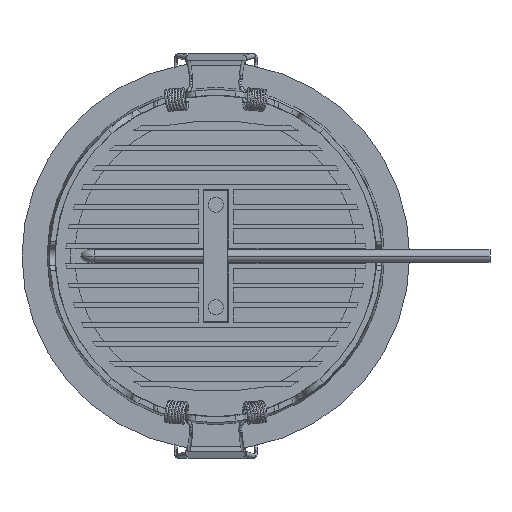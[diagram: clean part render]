
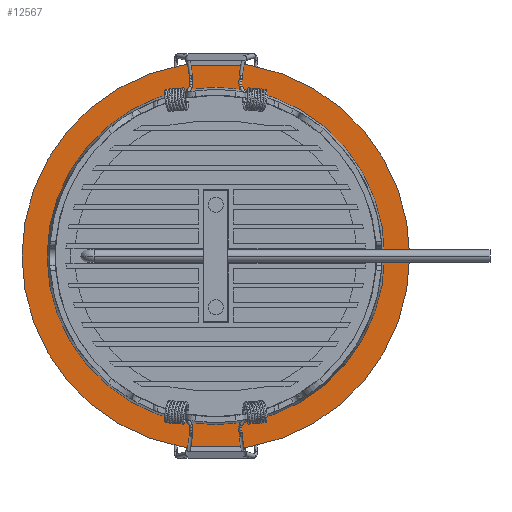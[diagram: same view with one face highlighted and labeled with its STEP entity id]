
A CAD part, front view. The second image highlights one B-rep face of the part: STEP entity #12567.
In plain terms, the highlighted planar face has unit normal (0, -1, 0).
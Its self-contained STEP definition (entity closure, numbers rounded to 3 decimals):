
#12316=CARTESIAN_POINT('',(0.,0.,0.));
#12317=DIRECTION('',(0.,1.,0.));
#12318=DIRECTION('',(1.,0.,0.));
#12319=AXIS2_PLACEMENT_3D('',#12316,#12317,#12318);
#12324=CARTESIAN_POINT('',(0.,0.,0.));
#12325=DIRECTION('',(0.,1.,0.));
#12326=DIRECTION('',(-1.,0.,0.));
#12327=AXIS2_PLACEMENT_3D('',#12324,#12325,#12326);
#12332=CARTESIAN_POINT('',(0.,0.,0.));
#12333=DIRECTION('',(0.,1.,0.));
#12334=DIRECTION('',(-1.,0.,0.));
#12335=AXIS2_PLACEMENT_3D('',#12332,#12333,#12334);
#12340=CARTESIAN_POINT('',(0.,0.,0.));
#12341=DIRECTION('',(0.,1.,0.));
#12342=DIRECTION('',(1.,0.,0.));
#12343=AXIS2_PLACEMENT_3D('',#12340,#12341,#12342);
#12518=CARTESIAN_POINT('',(77.5,0.,0.));
#12519=CARTESIAN_POINT('',(-77.5,0.,0.));
#12520=VERTEX_POINT('',#12518);
#12521=VERTEX_POINT('',#12519);
#12526=CARTESIAN_POINT('',(-67.48,0.,0.));
#12527=CARTESIAN_POINT('',(67.48,0.,0.));
#12528=VERTEX_POINT('',#12526);
#12529=VERTEX_POINT('',#12527);
#12550=CARTESIAN_POINT('',(0.,0.,0.));
#12551=DIRECTION('',(0.,1.,0.));
#12552=DIRECTION('',(1.,0.,0.));
#12553=AXIS2_PLACEMENT_3D('',#12550,#12551,#12552);
#12554=PLANE('',#12553);
#12556=ORIENTED_EDGE('',*,*,#12555,.T.);
#12558=ORIENTED_EDGE('',*,*,#12557,.T.);
#12559=EDGE_LOOP('',(#12556,#12558));
#12560=FACE_OUTER_BOUND('',#12559,.F.);
#12562=ORIENTED_EDGE('',*,*,#12561,.F.);
#12564=ORIENTED_EDGE('',*,*,#12563,.F.);
#12565=EDGE_LOOP('',(#12562,#12564));
#12566=FACE_BOUND('',#12565,.F.);
#12567=ADVANCED_FACE('',(#12560,#12566),#12554,.F.);
#12320=CIRCLE('',#12319,77.5);
#12328=CIRCLE('',#12327,77.5);
#12336=CIRCLE('',#12335,67.48);
#12344=CIRCLE('',#12343,67.48);
#12555=EDGE_CURVE('',#12520,#12521,#12320,.T.);
#12557=EDGE_CURVE('',#12521,#12520,#12328,.T.);
#12561=EDGE_CURVE('',#12528,#12529,#12336,.T.);
#12563=EDGE_CURVE('',#12529,#12528,#12344,.T.);
